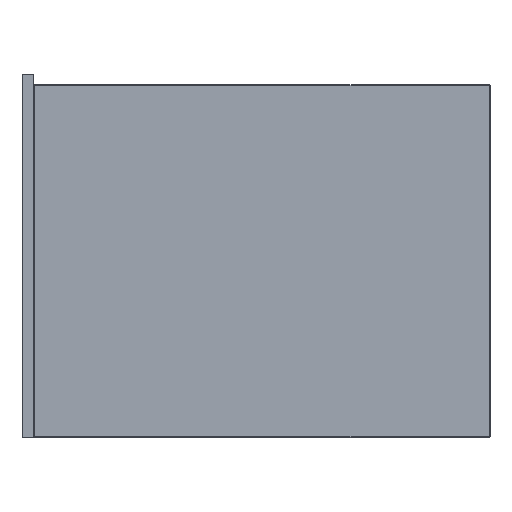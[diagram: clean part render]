
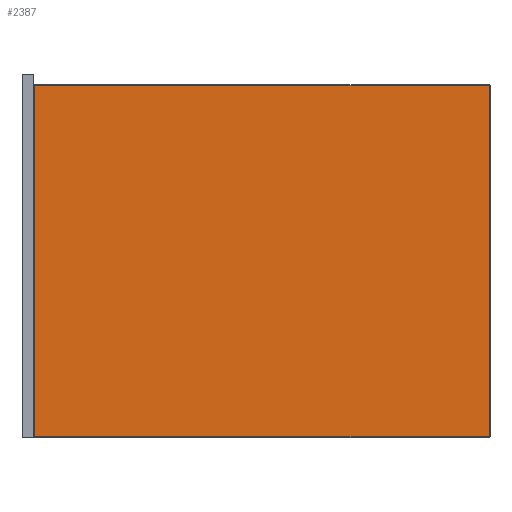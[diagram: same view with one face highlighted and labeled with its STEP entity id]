
A CAD part, left-side view. The second image highlights one B-rep face of the part: STEP entity #2387.
In plain terms, the highlighted planar face has unit normal (-1, 0, 0) as drawn and (0, 0, -1) by its records, which use the part's own axes.
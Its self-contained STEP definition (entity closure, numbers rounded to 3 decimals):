
#37 = ORIENTED_EDGE ( 'NONE', *, *, #963, .T. ) ;
#287 = AXIS2_PLACEMENT_3D ( 'NONE', #1121, #327, #1884 ) ;
#327 = DIRECTION ( 'NONE',  ( 0., 0., -1. ) ) ;
#364 = FACE_OUTER_BOUND ( 'NONE', #464, .T. ) ;
#373 = CARTESIAN_POINT ( 'NONE',  ( 225., 291., 0. ) ) ;
#433 = VECTOR ( 'NONE', #2608, 1000. ) ;
#450 = EDGE_CURVE ( 'NONE', #598, #542, #3275, .T. ) ;
#455 = CARTESIAN_POINT ( 'NONE',  ( -225., 291., 0. ) ) ;
#464 = EDGE_LOOP ( 'NONE', ( #951, #984, #37, #812 ) ) ;
#542 = VERTEX_POINT ( 'NONE', #2842 ) ;
#598 = VERTEX_POINT ( 'NONE', #3356 ) ;
#785 = LINE ( 'NONE', #1534, #1486 ) ;
#812 = ORIENTED_EDGE ( 'NONE', *, *, #450, .T. ) ;
#939 = CARTESIAN_POINT ( 'NONE',  ( 226., 291., 0. ) ) ;
#951 = ORIENTED_EDGE ( 'NONE', *, *, #1326, .T. ) ;
#963 = EDGE_CURVE ( 'NONE', #3208, #598, #2627, .T. ) ;
#984 = ORIENTED_EDGE ( 'NONE', *, *, #1752, .T. ) ;
#1121 = CARTESIAN_POINT ( 'NONE',  ( 0., 0., 0. ) ) ;
#1326 = EDGE_CURVE ( 'NONE', #542, #1823, #785, .T. ) ;
#1486 = VECTOR ( 'NONE', #2588, 1000. ) ;
#1534 = CARTESIAN_POINT ( 'NONE',  ( -225., 292., 0. ) ) ;
#1752 = EDGE_CURVE ( 'NONE', #1823, #3208, #2217, .T. ) ;
#1823 = VERTEX_POINT ( 'NONE', #455 ) ;
#1884 = DIRECTION ( 'NONE',  ( -1., 0., 0. ) ) ;
#1968 = DIRECTION ( 'NONE',  ( -1., 0., 0. ) ) ;
#2121 = VECTOR ( 'NONE', #1968, 1000. ) ;
#2217 = LINE ( 'NONE', #939, #2736 ) ;
#2256 = CARTESIAN_POINT ( 'NONE',  ( -226., -291., 0. ) ) ;
#2285 = CARTESIAN_POINT ( 'NONE',  ( 225., -292., 0. ) ) ;
#2387 = ADVANCED_FACE ( 'NONE', ( #364 ), #3273, .T. ) ;
#2532 = DIRECTION ( 'NONE',  ( 1., 0., 0. ) ) ;
#2588 = DIRECTION ( 'NONE',  ( 0., 1., 0. ) ) ;
#2608 = DIRECTION ( 'NONE',  ( 0., -1., 0. ) ) ;
#2627 = LINE ( 'NONE', #2285, #433 ) ;
#2736 = VECTOR ( 'NONE', #2532, 1000. ) ;
#2842 = CARTESIAN_POINT ( 'NONE',  ( -225., -291., 0. ) ) ;
#3208 = VERTEX_POINT ( 'NONE', #373 ) ;
#3273 = PLANE ( 'NONE',  #287 ) ;
#3275 = LINE ( 'NONE', #2256, #2121 ) ;
#3356 = CARTESIAN_POINT ( 'NONE',  ( 225., -291., 0. ) ) ;
